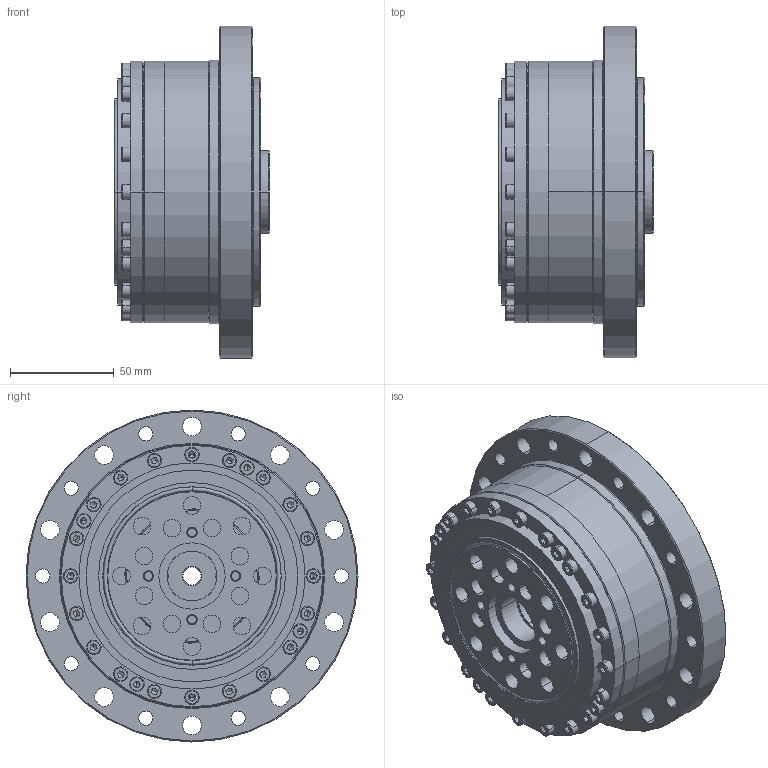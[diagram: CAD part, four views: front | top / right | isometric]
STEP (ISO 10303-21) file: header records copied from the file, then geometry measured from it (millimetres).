
FILE_DESCRIPTION (( 'STEP AP203' ), '1' );
FILE_NAME ('FCG-40-XXX-AJ.STEP', '2023-01-16T07:07:49', ( '微软用户' ), ( '微软中国' ), 'SwSTEP 2.0', 'SolidWorks 2016', '' );
FILE_SCHEMA (( 'CONFIG_CONTROL_DESIGN' ));
Length unit declared in the file: millimetre
Products named in the file (1): FCG-40-XXX-AJ
Bounding box: 74.5 x 160 x 160 mm (x, y, z)
Volume: 637794.4 mm3; surface area: 290679 mm2
Topology: 76 solids, 76 shells, 1631 faces, 3820 edges, 2315 vertices
Faces by surface type: cylinder 592, plane 569, cone 248, torus 128, bspline 48, sphere 46
Entity records: 49850 total; most frequent: CARTESIAN_POINT 12111, DIRECTION 8545, ORIENTED_EDGE 7226, EDGE_CURVE 3613, AXIS2_PLACEMENT_3D 3448, VERTEX_POINT 2246, EDGE_LOOP 2001, CIRCLE 1864
